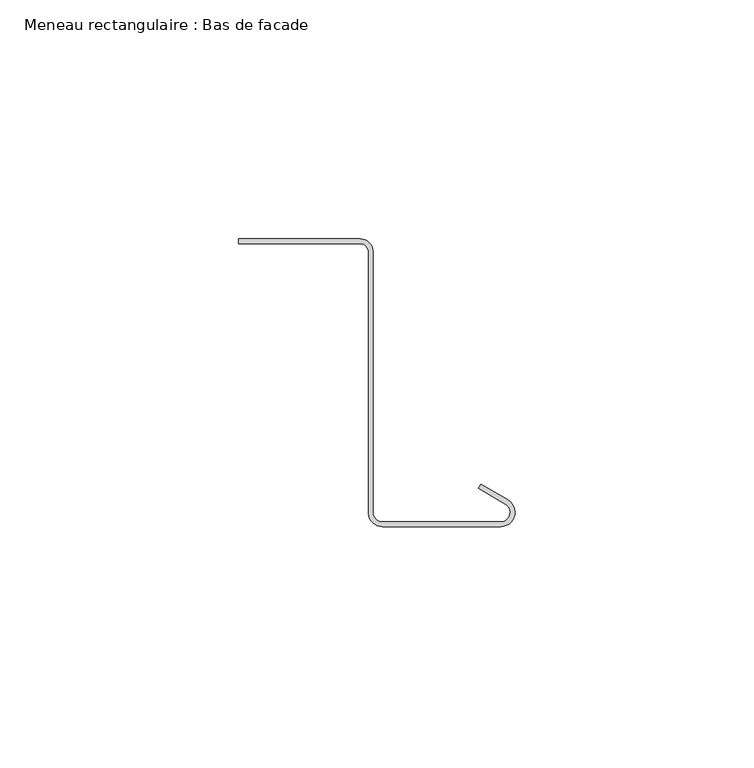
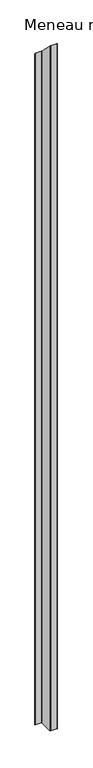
"""IFC4 building model written with IfcOpenShell, lengths in millimetres: member geometry, Meneau rectangulaire : Bas de facade."""

from ifc_helpers import new_model, si_unit, frame, origin, place, context, project, spatial, polyline, circle_curve, ellipse_curve, source, transform, mapped, element, save
from ifc_brep_helpers import plane_surface, cylinder_surface, revolved_surface, advanced_brep


def meneau_rectangulaire_bas_de_facade_6c0907f5(model_context):
    return source(origin(), model_context, "Body", "AdvancedBrep", [
        advanced_brep(
        [(-32.4584179, 2.9588923, -2895.0), (-29.7143802, 0.3898824, -2895.0), (-29.7143802, -54.5495817, -2895.0), (-27.735368, -56.2605998, -2895.0), (-3.0, -56.2605998, -2895.0), (-2.0, -52.528549, -2895.0), (-7.6638061, -49.258549, -2895.0), (-7.1638061, -48.3925235, -2895.0), (-1.5, -51.6625235, -2895.0), (-3.0, -57.2605998, -2895.0), (-27.735368, -57.2605998, -2895.0), (-30.7239521, -54.522067, -2895.0), (-30.7239521, 0.4415475, -2895.0), (-32.4584179, 1.9588923, -2895.0), (-57.8548383, 1.9588923, -2895.0), (-57.8548383, 2.9588923, -2895.0), (-57.8548383, 2.9588923, -2.9588923), (-32.4584179, 2.9588923, -2.9588923), (-57.8548383, 1.9588923, -1.9588923), (-32.4584179, 1.9588923, -1.9588923), (-30.7239521, 0.4415475, -0.4415475), (-30.7239521, -54.522067, 54.522067), (-27.735368, -57.2605998, 57.2605998), (-3.0, -57.2605998, 57.2605998), (-1.5, -51.6625235, 51.6625235), (-7.1638061, -48.3925235, 48.3925235), (-7.6638061, -49.258549, 49.258549), (-2.0, -52.528549, 52.528549), (-3.0, -56.2605998, 56.2605998), (-27.735368, -56.2605998, 56.2605998), (-29.7143802, -54.5495817, 54.5495817), (-29.7143802, 0.3898824, -0.3898824)],
        [
            (0, 1, circle_curve(frame((-32.4584179, 0.2088923, -2895.0), z_axis=(0.0, 0.0, -1.0), x_axis=(0.0, 1.0, 0.0)), 2.75)),
            (1, 2),
            (2, 3, circle_curve(frame((-27.735368, -54.2605998, -2895.0), z_axis=(0.0, 0.0, 1.0), x_axis=(-0.9961946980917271, -0.08715574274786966, 0.0)), 2.0)),
            (3, 4),
            (4, 5, circle_curve(frame((-3.0, -54.2605998, -2895.0), z_axis=(0.0, 0.0, 1.0), x_axis=(0.0, -1.0, 0.0)), 2.0)),
            (5, 6),
            (6, 7),
            (7, 8),
            (8, 9, circle_curve(frame((-3.0, -54.2605998, -2895.0), z_axis=(0.0, 0.0, -1.0), x_axis=(0.0, -1.0, 0.0)), 3.0)),
            (9, 10),
            (10, 11, circle_curve(frame((-27.735368, -54.2605998, -2895.0), z_axis=(0.0, 0.0, -1.0), x_axis=(-0.9961946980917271, -0.08715574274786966, 0.0)), 3.0)),
            (11, 12),
            (12, 13, circle_curve(frame((-32.4584179, 0.2088923, -2895.0), z_axis=(0.0, 0.0, 1.0), x_axis=(0.0, 1.0, 0.0)), 1.75)),
            (13, 14),
            (14, 15),
            (15, 0),
            (16, 17),
            (17, 0),
            (15, 16),
            (18, 16),
            (14, 18),
            (19, 18),
            (13, 19),
            (20, 19, ellipse_curve(frame((-32.4584179, 0.2088923, -0.2088923), z_axis=(0.0, 0.7071067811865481, 0.707106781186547), x_axis=(0.0, 0.707106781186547, -0.7071067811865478)), 2.4748737, 1.75)),
            (12, 20),
            (21, 20),
            (11, 21),
            (22, 21, ellipse_curve(frame((-27.735368, -54.2605998, 54.2605998), z_axis=(0.0, -0.7071067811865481, -0.707106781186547), x_axis=(0.0, -0.707106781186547, 0.7071067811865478)), 4.2426407, 3.0)),
            (10, 22),
            (23, 22),
            (9, 23),
            (24, 23, ellipse_curve(frame((-3.0, -54.2605998, 54.2605998), z_axis=(0.0, -0.7071067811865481, -0.707106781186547), x_axis=(0.0, -0.707106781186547, 0.7071067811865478)), 4.2426407, 3.0)),
            (8, 24),
            (25, 24),
            (7, 25),
            (26, 25),
            (6, 26),
            (27, 26),
            (5, 27),
            (28, 27, ellipse_curve(frame((-3.0, -54.2605998, 54.2605998), z_axis=(0.0, 0.7071067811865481, 0.707106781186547), x_axis=(0.0, 0.707106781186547, -0.7071067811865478)), 2.8284271, 2.0)),
            (4, 28),
            (29, 28),
            (3, 29),
            (30, 29, ellipse_curve(frame((-27.735368, -54.2605998, 54.2605998), z_axis=(0.0, 0.7071067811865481, 0.707106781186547), x_axis=(0.0, 0.707106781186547, -0.7071067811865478)), 2.8284271, 2.0)),
            (2, 30),
            (31, 30),
            (1, 31),
            (17, 31, ellipse_curve(frame((-32.4584179, 0.2088923, -0.2088923), z_axis=(0.0, -0.7071067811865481, -0.707106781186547), x_axis=(0.0, -0.707106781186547, 0.7071067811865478)), 3.8890873, 2.75)),
        ],
        [
            plane_surface(frame((0.0, -63.8351035, -2895.0), z_axis=(0.0, 0.0, -1.0), x_axis=(-1.0, 0.0, 0.0))),
            plane_surface(frame((-32.4584179, 2.9588923, 0.0), z_axis=(0.0, 1.0, 0.0), x_axis=(0.0, 0.0, -1.0))),
            plane_surface(frame((-57.8548383, 2.9588923, 0.0), z_axis=(-1.0, 0.0, 0.0), x_axis=(0.0, 0.0, -1.0))),
            plane_surface(frame((-57.8548383, 1.9588923, 0.0), z_axis=(0.0, -1.0, 0.0), x_axis=(0.0, 0.0, -1.0))),
            revolved_surface(polyline([(-32.4584179, 1.9588923, -2895.0), (-32.4584179, 1.9588923, 1.5411076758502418)]), (-32.4584179, 0.2088923, 0.0), (0.0, 0.0, -1.0)),
            plane_surface(frame((-30.7239521, 0.4415475, 0.0), z_axis=(-1.0, 0.0, 0.0), x_axis=(0.0, 0.0, -1.0))),
            cylinder_surface(frame((-27.735368, -54.2605998, 0.0), z_axis=(0.0, 0.0, 1.0000000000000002), x_axis=(-0.9961946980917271, -0.08715574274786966, 0.0)), 3.0),
            plane_surface(frame((-27.735368, -57.2605998, 0.0), z_axis=(0.0, -1.0, 0.0), x_axis=(0.0, 0.0, -1.0))),
            cylinder_surface(frame((-3.0, -54.2605998, 0.0), z_axis=(0.0, 0.0, 1.0), x_axis=(0.0, -1.0, 0.0)), 3.0),
            plane_surface(frame((-1.5, -51.6625235, 0.0), z_axis=(0.5000000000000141, 0.8660254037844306, 0.0), x_axis=(0.0, 0.0, -1.0))),
            plane_surface(frame((-7.1638061, -48.3925235, 0.0), z_axis=(-0.8660254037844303, 0.5000000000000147, 0.0), x_axis=(0.0, 0.0, -1.0))),
            plane_surface(frame((-7.6638061, -49.258549, 0.0), z_axis=(-0.500000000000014, -0.8660254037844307, 0.0), x_axis=(0.0, 0.0, -1.0))),
            revolved_surface(polyline([(-3.0, -56.2605998, -2895.0), (-3.0, -56.2605998, 56.2605998)]), (-3.0, -54.2605998, 0.0), (0.0, 0.0, -1.0)),
            plane_surface(frame((-3.0, -56.2605998, 0.0), z_axis=(0.0, 1.0, 0.0), x_axis=(0.0, 0.0, -1.0))),
            revolved_surface(polyline([(-29.727757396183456, -54.434911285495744, -2895.000000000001), (-29.727757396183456, -54.434911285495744, 56.26059980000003)]), (-27.735368, -54.2605998, 0.0), (0.0, 0.0, -1.0000000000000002)),
            plane_surface(frame((-29.7143802, -54.5495817, 0.0), z_axis=(1.0, 0.0, 0.0), x_axis=(0.0, 0.0, -1.0))),
            cylinder_surface(frame((-32.4584179, 0.2088923, 0.0), z_axis=(0.0, 0.0, 1.0), x_axis=(0.0, 1.0, 0.0)), 2.75),
            plane_surface(frame((-304.8, 0.0, 0.0), z_axis=(0.0, 0.7071067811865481, 0.707106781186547), x_axis=(0.0, 0.707106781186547, -0.7071067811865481))),
        ],
        [
            (0, [[1, 2, 3, 4, 5, 6, 7, 8, 9, 10, 11, 12, 13, 14, 15, 16]]),
            (1, [[17, 18, -16, 19]]),
            (2, [[20, -19, -15, 21]]),
            (3, [[22, -21, -14, 23]]),
            (4, [[24, -23, -13, 25]]),
            (5, [[26, -25, -12, 27]]),
            (6, [[28, -27, -11, 29]]),
            (7, [[30, -29, -10, 31]]),
            (8, [[32, -31, -9, 33]]),
            (9, [[34, -33, -8, 35]]),
            (10, [[36, -35, -7, 37]]),
            (11, [[38, -37, -6, 39]]),
            (12, [[40, -39, -5, 41]]),
            (13, [[42, -41, -4, 43]]),
            (14, [[44, -43, -3, 45]]),
            (15, [[46, -45, -2, 47]]),
            (16, [[48, -47, -1, -18]]),
            (17, [[-17, -20, -22, -24, -26, -28, -30, -32, -34, -36, -38, -40, -42, -44, -46, -48]]),
        ],
    ),
    ])


if __name__ == "__main__":
    model = new_model("IFC4")
    model_context = context("Model", 3, world=origin())
    ifc_project = project(units=[si_unit("LENGTHUNIT", "METRE", prefix="MILLI")], contexts=[model_context])
    site = spatial("IfcSite", under=ifc_project)
    building = spatial("IfcBuilding", under=site)
    placement = place(None, origin())
    meneau_rectangulaire_bas_de_facade_shape = meneau_rectangulaire_bas_de_facade_6c0907f5(model_context)
    element("IfcMember", 1, ObjectType="Meneau rectangulaire : Bas de facade", at=placement, inside=building, context=model_context, shape_type="MappedRepresentation", body=[
        mapped(meneau_rectangulaire_bas_de_facade_shape, transform((0.0, 0.0, 0.0), x_axis=(1.0, 0.0, 0.0), y_axis=(0.0, 1.0, 0.0), z_axis=(0.0, 0.0, 1.0))),
    ])
    save(model, "model.ifc")
